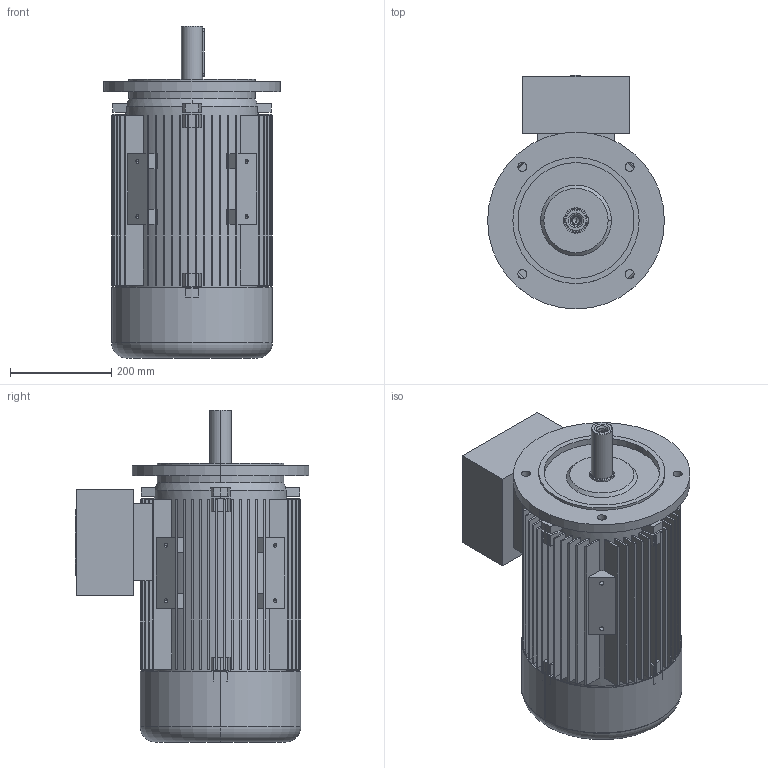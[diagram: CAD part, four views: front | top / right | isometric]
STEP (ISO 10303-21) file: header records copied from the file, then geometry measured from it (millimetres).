
FILE_DESCRIPTION (( 'STEP AP203' ), '1' );
FILE_NAME ('20.18369_B 7AZ 160 M&L B5 STANDK.STEP', '2018-04-06T07:41:32', ( '' ), ( '' ), 'SwSTEP 2.0', 'SolidWorks 2017', '' );
FILE_SCHEMA (( 'CONFIG_CONTROL_DESIGN' ));
Length unit declared in the file: millimetre
Products named in the file (1): 20.18369_B 7AZ 160 M&L B5 STANDK
Bounding box: 350 x 463 x 657 mm (x, y, z)
Volume: 15995761.1 mm3; surface area: 2656113.4 mm2
Topology: 4 solids, 4 shells, 711 faces, 1934 edges, 1271 vertices
Faces by surface type: plane 491, cylinder 169, cone 38, bspline 9, torus 4
Entity records: 22680 total; most frequent: CARTESIAN_POINT 4228, DIRECTION 3896, ORIENTED_EDGE 3832, EDGE_CURVE 1916, AXIS2_PLACEMENT_3D 1315, VERTEX_POINT 1271, VECTOR 1266, LINE 1266
